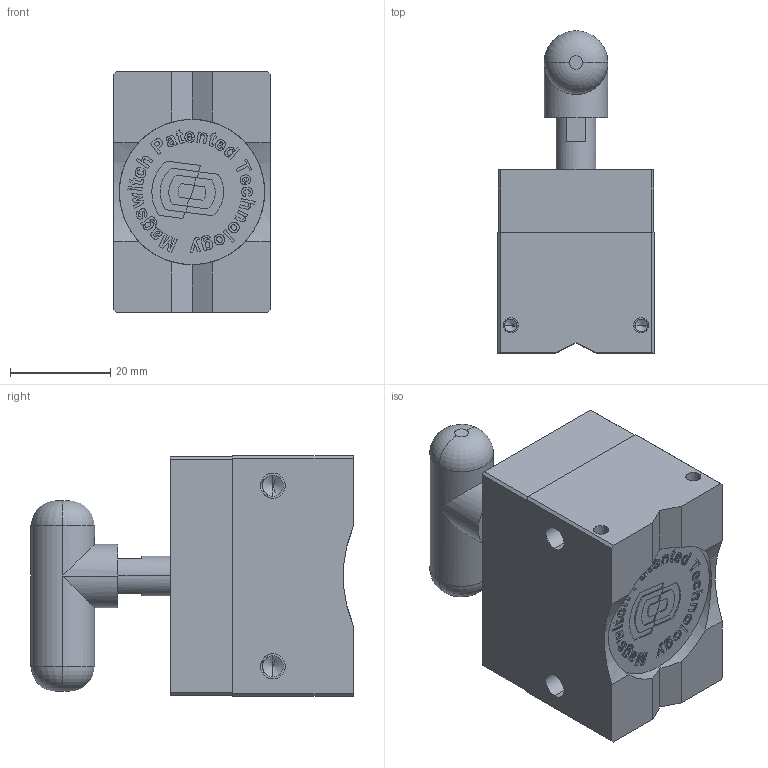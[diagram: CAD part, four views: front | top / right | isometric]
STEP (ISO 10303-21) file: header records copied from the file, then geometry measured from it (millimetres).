
FILE_DESCRIPTION (( 'STEP AP214' ), '1' );
FILE_NAME ('8100494.STEP', '2020-08-13T21:07:42', ( '' ), ( '' ), 'SwSTEP 2.0', 'SolidWorks 2018', '' );
FILE_SCHEMA (( 'AUTOMOTIVE_DESIGN' ));
Length unit declared in the file: millimetre
Products named in the file (2): 8100494
Bounding box: 31.2 x 64.25 x 48 mm (x, y, z)
Volume: 57026.5 mm3; surface area: 12090 mm2
Topology: 1 solids, 2 shells, 654 faces, 1690 edges, 1092 vertices
Faces by surface type: plane 318, bspline 198, cylinder 80, cone 52, torus 6
Entity records: 35927 total; most frequent: CARTESIAN_POINT 14536, ORIENTED_EDGE 3348, DIRECTION 2350, EDGE_CURVE 1674, VERTEX_POINT 1092, VECTOR 1010, LINE 1010, EDGE_LOOP 724
